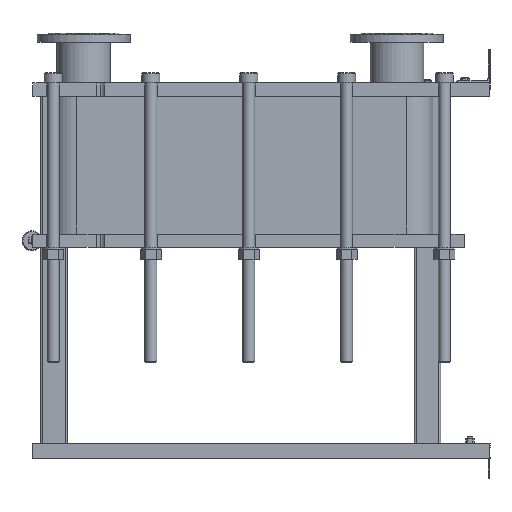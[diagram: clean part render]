
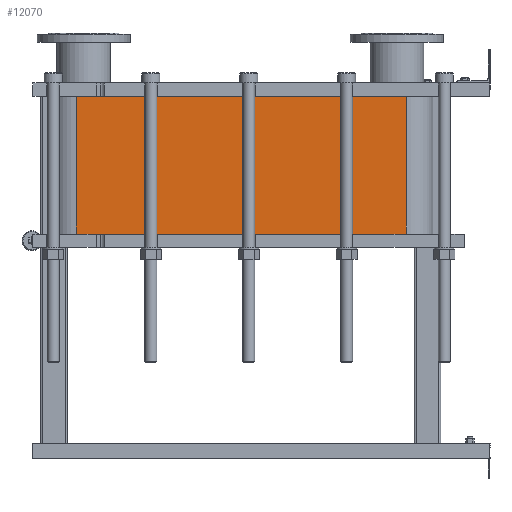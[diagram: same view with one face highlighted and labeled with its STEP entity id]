
A CAD part, left-side view. The second image highlights one B-rep face of the part: STEP entity #12070.
In plain terms, the highlighted planar face has unit normal (-1, 0, 0).
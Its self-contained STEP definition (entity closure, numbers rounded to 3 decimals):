
#1064=LINE('',#21140,#2164);
#1065=LINE('',#21144,#2165);
#1066=LINE('',#21146,#2166);
#1067=LINE('',#21147,#2167);
#2164=VECTOR('',#15790,10.);
#2165=VECTOR('',#15795,10.);
#2166=VECTOR('',#15796,10.);
#2167=VECTOR('',#15797,10.);
#3304=FACE_OUTER_BOUND('',#4091,.T.);
#4091=EDGE_LOOP('',(#9793,#9794,#9795,#9796));
#5677=VERTEX_POINT('',#21137);
#5678=VERTEX_POINT('',#21139);
#5679=VERTEX_POINT('',#21143);
#5680=VERTEX_POINT('',#21145);
#7118=EDGE_CURVE('',#5678,#5677,#1064,.T.);
#7120=EDGE_CURVE('',#5677,#5679,#1065,.T.);
#7121=EDGE_CURVE('',#5680,#5679,#1066,.T.);
#7122=EDGE_CURVE('',#5680,#5678,#1067,.T.);
#9793=ORIENTED_EDGE('',*,*,#7120,.T.);
#9794=ORIENTED_EDGE('',*,*,#7121,.F.);
#9795=ORIENTED_EDGE('',*,*,#7122,.T.);
#9796=ORIENTED_EDGE('',*,*,#7118,.T.);
#11441=PLANE('',#13191);
#12070=ADVANCED_FACE('',(#3304),#11441,.T.);
#13191=AXIS2_PLACEMENT_3D('',#21142,#15793,#15794);
#15790=DIRECTION('',(0.,0.,-1.));
#15793=DIRECTION('center_axis',(-1.,0.,0.));
#15794=DIRECTION('ref_axis',(0.,1.,0.));
#15795=DIRECTION('',(0.,-1.,0.));
#15796=DIRECTION('',(0.,0.,-1.));
#15797=DIRECTION('',(0.,1.,0.));
#21137=CARTESIAN_POINT('',(-248.152,1243.818,-414.));
#21139=CARTESIAN_POINT('',(-248.152,1243.818,0.));
#21140=CARTESIAN_POINT('',(-248.152,1243.818,0.));
#21142=CARTESIAN_POINT('Origin',(-248.152,251.818,0.));
#21143=CARTESIAN_POINT('',(-248.152,251.818,-414.));
#21144=CARTESIAN_POINT('',(-248.152,499.818,-414.));
#21145=CARTESIAN_POINT('',(-248.152,251.818,0.));
#21146=CARTESIAN_POINT('',(-248.152,251.818,0.));
#21147=CARTESIAN_POINT('',(-248.152,251.818,0.));
